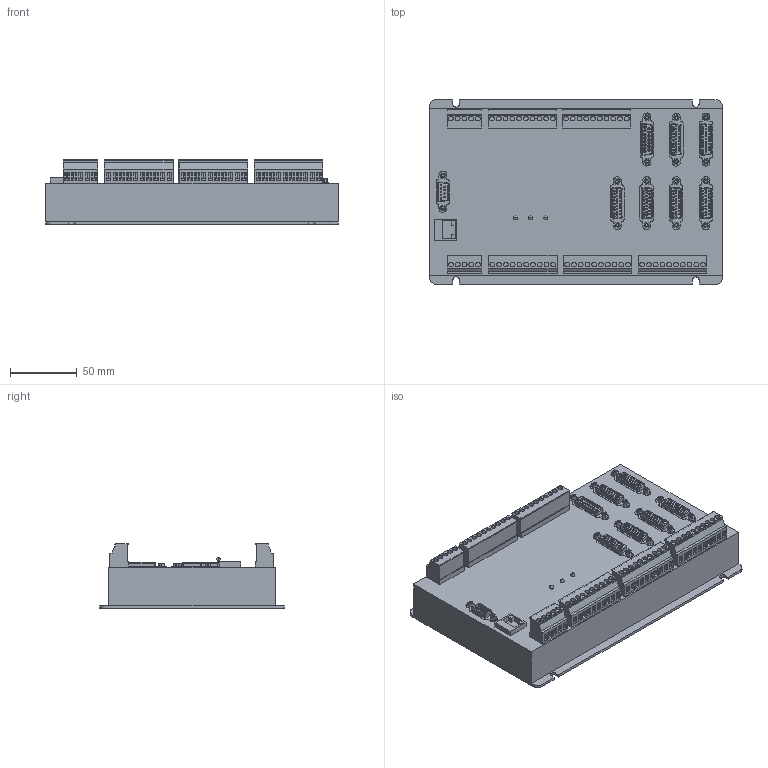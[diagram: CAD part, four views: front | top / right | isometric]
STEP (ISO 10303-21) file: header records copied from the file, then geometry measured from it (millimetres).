
FILE_DESCRIPTION (( 'STEP AP203' ), '1' );
FILE_NAME ('ECI2610Ä£ÐÍ3D.STEP', '2022-09-26T05:38:12', ( '' ), ( '' ), 'SwSTEP 2.0', 'SolidWorks 2019', '' );
FILE_SCHEMA (( 'CONFIG_CONTROL_DESIGN' ));
Products named in the file (1): ECI2610耀倰3D
Bounding box: 220 x 138.5 x 48.67 mm (x, y, z)
Volume: 916844.7 mm3; surface area: 121111.9 mm2
Topology: 15 solids, 15 shells, 2447 faces, 5515 edges, 3375 vertices
Faces by surface type: plane 1002, cylinder 839, torus 395, sphere 118, bspline 84, cone 9
Entity records: 70778 total; most frequent: CARTESIAN_POINT 15020, DIRECTION 12597, ORIENTED_EDGE 10872, EDGE_CURVE 5436, AXIS2_PLACEMENT_3D 4935, VERTEX_POINT 3366, EDGE_LOOP 2796, LINE 2727
